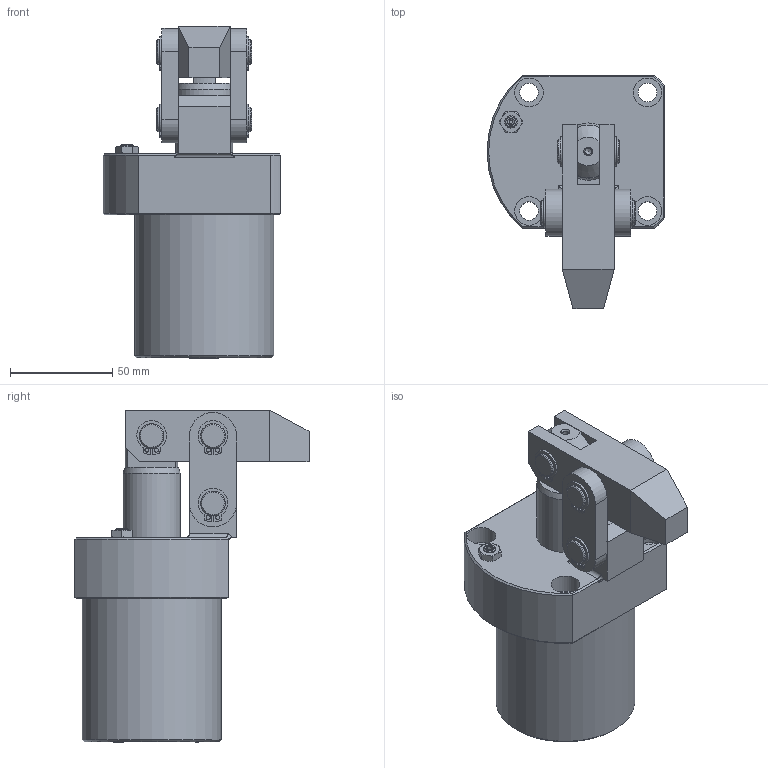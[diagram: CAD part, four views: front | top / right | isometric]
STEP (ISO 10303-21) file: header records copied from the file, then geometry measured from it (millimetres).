
FILE_DESCRIPTION(/* description */ ('Unknown'),/* implementation_level */ '2;1');
FILE_NAME(/* name */ 'HLC-FCM50-R-A',/* time_stamp */ '2022-11-23T03:55:43+08:00',/* author */ ('Unknown'),/* organization */ ('Unknown'),/* preprocessor_version */ 'ST-DEVELOPER v16.7',/* originating_system */ 'DEX',/* authorisation */ $);
FILE_SCHEMA (('AUTOMOTIVE_DESIGN {1 0 10303 214 3 1 1}'));
Length unit declared in the file: millimetre
Products named in the file (8): HLC-FCM50-R-A; HLC-FCM50-R-CYLINDER; HLC-5002-AXLE CENTRE; HLC-FCM50-C扣; HLC-50-A; HLC-FCM50-墊; HLC-FCM50-PINµu; HLC-FCM50-PINªø
Assembly tree (14 placements, depth 2):
  HLC-FCM50-R-A
    HLC-FCM50-R-CYLINDER
    HLC-5002-AXLE CENTRE
    HLC-FCM50-C扣  x6
    HLC-50-A
    HLC-FCM50-墊  x2
    HLC-FCM50-PINµu
    HLC-FCM50-PINªø  x2
Bounding box: 87 x 114.5 x 162.4 mm (x, y, z)
Volume: 470957.8 mm3; surface area: 95067.1 mm2
Topology: 14 solids, 14 shells, 296 faces, 684 edges, 446 vertices
Faces by surface type: plane 127, cylinder 124, cone 31, bspline 12, torus 2
Full cylindrical faces by diameter (mm): 2 x12, 3 x2, 3.2 x1, 4.1 x2, 6 x1, 9 x4, 11.3 x6, 12 x20, 14 x4, 28 x2, 49.4 x1, 50 x1, 68 x1
Entity records: 5433 total; most frequent: CARTESIAN_POINT 1175, DIRECTION 842, ORIENTED_EDGE 716, EDGE_CURVE 358, AXIS2_PLACEMENT_3D 352, FACE_BOUND 305, EDGE_LOOP 304, VERTEX_POINT 261
